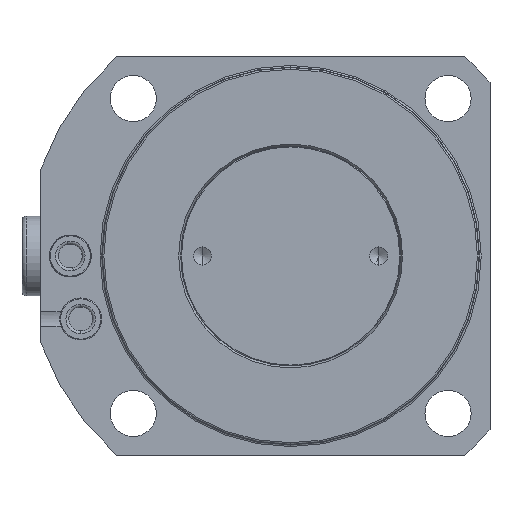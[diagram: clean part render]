
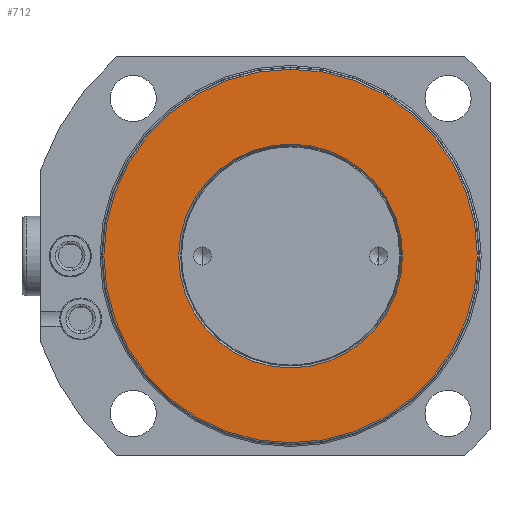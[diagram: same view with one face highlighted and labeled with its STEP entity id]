
A CAD part, front view. The second image highlights one B-rep face of the part: STEP entity #712.
In plain terms, the highlighted planar face has unit normal (0, -1, 0).
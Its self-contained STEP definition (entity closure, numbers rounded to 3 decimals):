
#356=FACE_BOUND('',#1310,.T.);
#357=FACE_BOUND('',#1311,.T.);
#430=PLANE('',#4540);
#712=ADVANCED_FACE('',(#356,#357),#430,.F.);
#1310=EDGE_LOOP('',(#2255,#2256));
#1311=EDGE_LOOP('',(#2257,#2258));
#2255=ORIENTED_EDGE('',*,*,#3608,.F.);
#2256=ORIENTED_EDGE('',*,*,#3672,.F.);
#2257=ORIENTED_EDGE('',*,*,#3613,.T.);
#2258=ORIENTED_EDGE('',*,*,#3671,.T.);
#3217=VERTEX_POINT('',#6901);
#3218=VERTEX_POINT('',#6902);
#3221=VERTEX_POINT('',#6910);
#3222=VERTEX_POINT('',#6912);
#3608=EDGE_CURVE('',#3217,#3218,#4098,.T.);
#3613=EDGE_CURVE('',#3222,#3221,#4102,.T.);
#3671=EDGE_CURVE('',#3221,#3222,#4130,.T.);
#3672=EDGE_CURVE('',#3218,#3217,#4131,.T.);
#4098=CIRCLE('',#4490,44.5);
#4102=CIRCLE('',#4495,26.662);
#4130=CIRCLE('',#4537,26.662);
#4131=CIRCLE('',#4539,44.5);
#4490=AXIS2_PLACEMENT_3D('',#6900,#5314,#5315);
#4495=AXIS2_PLACEMENT_3D('',#6911,#5325,#5326);
#4537=AXIS2_PLACEMENT_3D('',#7066,#5429,#5430);
#4539=AXIS2_PLACEMENT_3D('',#7068,#5433,#5434);
#4540=AXIS2_PLACEMENT_3D('',#7069,#5435,#5436);
#5314=DIRECTION('',(0.,1.,0.));
#5315=DIRECTION('',(0.,0.,1.));
#5325=DIRECTION('',(0.,1.,0.));
#5326=DIRECTION('',(0.,0.,1.));
#5429=DIRECTION('',(0.,1.,0.));
#5430=DIRECTION('',(0.,0.,1.));
#5433=DIRECTION('',(0.,1.,0.));
#5434=DIRECTION('',(0.,0.,1.));
#5435=DIRECTION('',(0.,1.,0.));
#5436=DIRECTION('',(0.,0.,-1.));
#6900=CARTESIAN_POINT('',(0.,3.5,0.));
#6901=CARTESIAN_POINT('',(0.,3.5,44.5));
#6902=CARTESIAN_POINT('',(0.,3.5,-44.5));
#6910=CARTESIAN_POINT('',(0.,3.5,26.662));
#6911=CARTESIAN_POINT('',(0.,3.5,0.));
#6912=CARTESIAN_POINT('',(0.,3.5,-26.662));
#7066=CARTESIAN_POINT('',(0.,3.5,0.));
#7068=CARTESIAN_POINT('',(0.,3.5,0.));
#7069=CARTESIAN_POINT('',(0.,3.5,0.));
